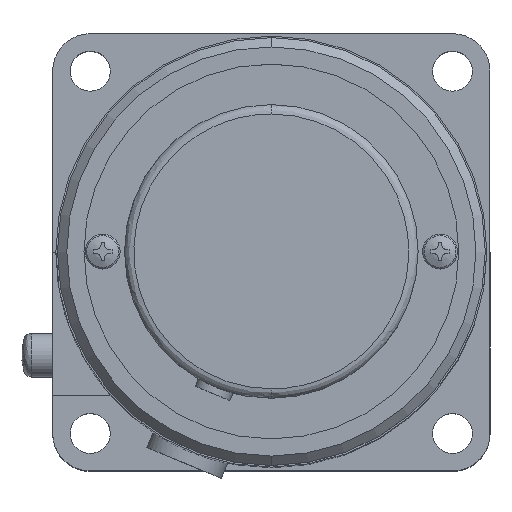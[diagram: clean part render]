
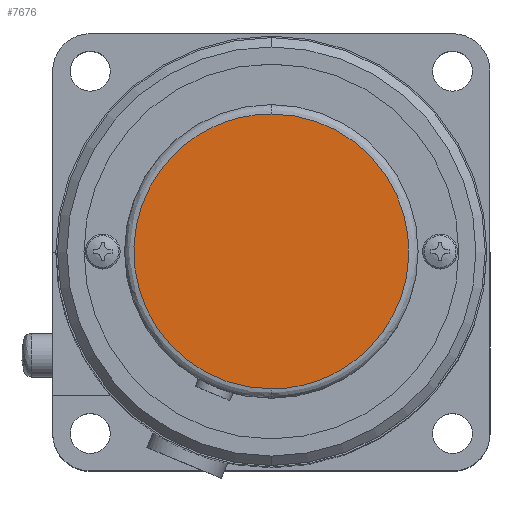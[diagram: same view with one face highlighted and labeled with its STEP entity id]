
A CAD part, top view. The second image highlights one B-rep face of the part: STEP entity #7676.
In plain terms, the highlighted planar face has unit normal (0, 0, 1).
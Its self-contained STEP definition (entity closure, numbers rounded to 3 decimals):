
#28 = VERTEX_POINT ( 'NONE', #3383 ) ;
#177 = CARTESIAN_POINT ( 'NONE',  ( 0., 0., 90. ) ) ;
#1262 = CARTESIAN_POINT ( 'NONE',  ( 0., -22., 90. ) ) ;
#1424 = FACE_OUTER_BOUND ( 'NONE', #6579, .T. ) ;
#1798 = EDGE_CURVE ( 'NONE', #5174, #28, #2652, .T. ) ;
#1857 = ORIENTED_EDGE ( 'NONE', *, *, #1798, .F. ) ;
#2652 =( BOUNDED_CURVE ( )  B_SPLINE_CURVE ( 3, ( #6204, #6791, #7359, #3853 ),
 .UNSPECIFIED., .F., .T. ) 
 B_SPLINE_CURVE_WITH_KNOTS ( ( 4, 4 ),
 ( 0., 1. ),
 .UNSPECIFIED. ) 
 CURVE ( )  GEOMETRIC_REPRESENTATION_ITEM ( )  RATIONAL_B_SPLINE_CURVE ( ( 1., 0.333, 0.333, 1. ) ) 
 REPRESENTATION_ITEM ( '' )  );
#2718 = DIRECTION ( 'NONE',  ( 0., 0., 1. ) ) ;
#3383 = CARTESIAN_POINT ( 'NONE',  ( 0., 22., 90. ) ) ;
#3822 =( BOUNDED_CURVE ( )  B_SPLINE_CURVE ( 3, ( #6648, #7228, #4933, #1262 ),
 .UNSPECIFIED., .F., .T. ) 
 B_SPLINE_CURVE_WITH_KNOTS ( ( 4, 4 ),
 ( 0., 1. ),
 .UNSPECIFIED. ) 
 CURVE ( )  GEOMETRIC_REPRESENTATION_ITEM ( )  RATIONAL_B_SPLINE_CURVE ( ( 1., 0.333, 0.333, 1. ) ) 
 REPRESENTATION_ITEM ( '' )  );
#3853 = CARTESIAN_POINT ( 'NONE',  ( 0., 22., 90. ) ) ;
#4933 = CARTESIAN_POINT ( 'NONE',  ( 44., -22., 90. ) ) ;
#5096 = CARTESIAN_POINT ( 'NONE',  ( 0., -22., 90. ) ) ;
#5174 = VERTEX_POINT ( 'NONE', #5096 ) ;
#5588 = ORIENTED_EDGE ( 'NONE', *, *, #7499, .F. ) ;
#5719 = PLANE ( 'NONE',  #6020 ) ;
#6020 = AXIS2_PLACEMENT_3D ( 'NONE', #177, #2718, #6884 ) ;
#6204 = CARTESIAN_POINT ( 'NONE',  ( 0., -22., 90. ) ) ;
#6579 = EDGE_LOOP ( 'NONE', ( #5588, #1857 ) ) ;
#6648 = CARTESIAN_POINT ( 'NONE',  ( 0., 22., 90. ) ) ;
#6791 = CARTESIAN_POINT ( 'NONE',  ( -44., -22., 90. ) ) ;
#6884 = DIRECTION ( 'NONE',  ( 0., -1., 0. ) ) ;
#7228 = CARTESIAN_POINT ( 'NONE',  ( 44., 22., 90. ) ) ;
#7359 = CARTESIAN_POINT ( 'NONE',  ( -44., 22., 90. ) ) ;
#7499 = EDGE_CURVE ( 'NONE', #28, #5174, #3822, .T. ) ;
#7676 = ADVANCED_FACE ( 'NONE', ( #1424 ), #5719, .T. ) ;
